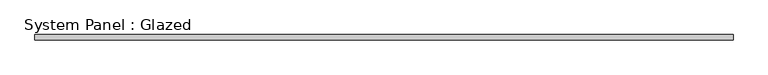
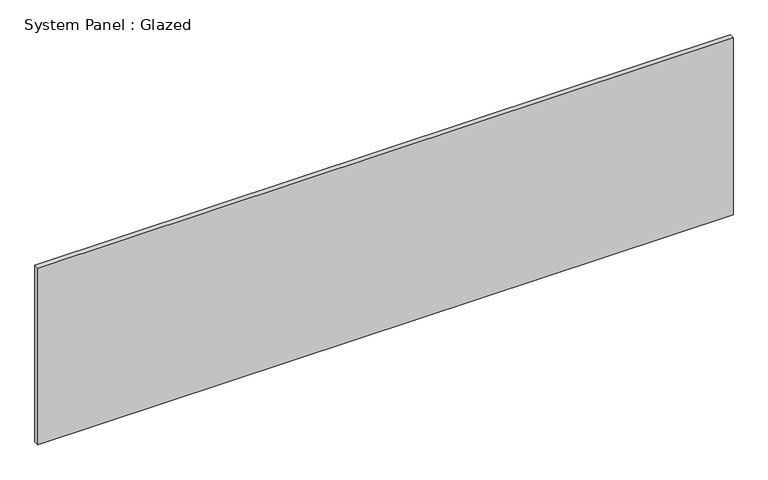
"""IFC4 building model written with IfcOpenShell, lengths in millimetres: plate geometry, System Panel : Glazed."""

import ifcopenshell
import ifcopenshell.guid

model = None  # the IFC model being written
_history = None  # IfcOwnerHistory: only IFC2X3 demands one
_inside = {}  # id of a spatial element -> (the spatial element, [elements in it])
_under = {}  # id of a project, library or spatial element -> (it, [spatial elements below it])
_declared = {}  # id of a project -> (the project, [libraries it declares])
_typed = {}  # id of a type object -> (the type object, [elements of that type])
_made_of = {}  # id of a material, layer set ... -> (it, [elements and type objects made of it])


def new_model(schema):
    """Start an empty IFC model of exactly this schema.

    Asked for "IFC4X3", IfcOpenShell would pick the latest addendum, in which some entities
    have other attributes; the version numbers below select the first issue.
    IFC2X3 requires an IfcOwnerHistory on every rooted entity: one is made here for all.
    """
    global model, _history
    if schema == "IFC4X3":
        model = ifcopenshell.file(schema_version=(4, 3, 0, 0))
    else:
        model = ifcopenshell.file(schema=schema)
    _inside.clear()
    _under.clear()
    _declared.clear()
    _typed.clear()
    _made_of.clear()
    _history = None
    if model.schema == "IFC2X3":
        org = make("IfcOrganization", Name="unknown")
        user = make(
            "IfcPersonAndOrganization",
            ThePerson=make("IfcPerson", FamilyName="unknown"),
            TheOrganization=org,
        )
        app = make(
            "IfcApplication",
            ApplicationDeveloper=org,
            Version="unknown",
            ApplicationFullName="unknown",
            ApplicationIdentifier="unknown",
        )
        _history = make(
            "IfcOwnerHistory",
            OwningUser=user,
            OwningApplication=app,
            ChangeAction="ADDED",
            CreationDate=0,
        )
    return model


def make(cls, **values):
    """One entity of the class cls with the attributes given. An attribute that is None is left unset."""
    return model.create_entity(
        cls, **{name: value for name, value in values.items() if value is not None}
    )


def rooted(cls, **values):
    """An entity with a GlobalId (a new one), such as an element, a storey or a relation."""
    return make(cls, GlobalId=ifcopenshell.guid.new(), OwnerHistory=_history, **values)


def si_unit(unit_type, name, prefix=None):
    """IfcSIUnit, for example si_unit("LENGTHUNIT", "METRE", prefix="MILLI")."""
    return make("IfcSIUnit", UnitType=unit_type, Prefix=prefix, Name=name)


def assignment(units):
    """IfcUnitAssignment: the units of a project."""
    return None if units is None else make("IfcUnitAssignment", Units=units)


def point(xyz):
    """IfcCartesianPoint."""
    return None if xyz is None else make("IfcCartesianPoint", Coordinates=xyz)


def direction(xyz):
    """IfcDirection."""
    return None if xyz is None else make("IfcDirection", DirectionRatios=xyz)


def frame(location, z_axis=None, x_axis=None):
    """IfcAxis2Placement3D, a coordinate frame: its origin and axes. An axis left out is left unset."""
    return make(
        "IfcAxis2Placement3D",
        Location=point(location),
        Axis=direction(z_axis),
        RefDirection=direction(x_axis),
    )


def origin():
    """The frame at (0, 0, 0) with its axes left unset."""
    return frame((0.0, 0.0, 0.0))


def origin_with_axes():
    """The frame at (0, 0, 0) with the z axis (0, 0, 1) and the x axis (1, 0, 0) written out."""
    return frame((0.0, 0.0, 0.0), z_axis=(0.0, 0.0, 1.0), x_axis=(1.0, 0.0, 0.0))


def place(relative_to, where):
    """IfcLocalPlacement: puts the frame where relative to a parent placement (None: the world)."""
    return make(
        "IfcLocalPlacement", PlacementRelTo=relative_to, RelativePlacement=where
    )


def context(
    kind, dimensions, precision=None, world=None, true_north=None, identifier=None
):
    """IfcGeometricRepresentationContext, for example the 3D "Model" context."""
    return make(
        "IfcGeometricRepresentationContext",
        ContextIdentifier=identifier,
        ContextType=kind,
        CoordinateSpaceDimension=dimensions,
        Precision=precision,
        WorldCoordinateSystem=world,
        TrueNorth=true_north,
    )


def project(units=None, contexts=None):
    """IfcProject with its units and contexts."""
    return rooted(
        "IfcProject",
        Name="project",
        RepresentationContexts=contexts,
        UnitsInContext=assignment(units),
    )


def spatial(cls, under=None, at=None, **own):
    """A site, building, storey or space (cls), placed at a placement, below another one or the project."""
    s = rooted(cls, ObjectPlacement=at, **own)
    if under is not None:
        _under.setdefault(under.id(), (under, []))[1].append(s)
    return s


def polyline(points):
    """IfcPolyline through the points."""
    return make("IfcPolyline", Points=[point(p) for p in points])


def outline(outer, holes=None, kind="AREA"):
    """IfcArbitraryClosedProfileDef: a profile drawn as a closed curve; with holes, ...WithVoids."""
    if holes is None:
        return make("IfcArbitraryClosedProfileDef", ProfileType=kind, OuterCurve=outer)
    return make(
        "IfcArbitraryProfileDefWithVoids",
        ProfileType=kind,
        OuterCurve=outer,
        InnerCurves=holes,
    )


def extrude(swept, where, along, depth):
    """IfcExtrudedAreaSolid: the profile swept, set in the frame where, extruded along a direction by depth."""
    return make(
        "IfcExtrudedAreaSolid",
        SweptArea=swept,
        Position=where,
        ExtrudedDirection=direction(along),
        Depth=depth,
    )


def shape(context_of_items, identifier, shape_type, items):
    """IfcShapeRepresentation: the items that make up one representation, for example the "Body"."""
    return make(
        "IfcShapeRepresentation",
        ContextOfItems=context_of_items,
        RepresentationIdentifier=identifier,
        RepresentationType=shape_type,
        Items=items,
    )


def source(mapping_origin, context_of_items, identifier, shape_type, items):
    """IfcRepresentationMap: a shape defined once, which mapped items show again and again."""
    return make(
        "IfcRepresentationMap",
        MappingOrigin=mapping_origin,
        MappedRepresentation=shape(context_of_items, identifier, shape_type, items),
    )


def transform(
    local_origin,
    x_axis=None,
    y_axis=None,
    z_axis=None,
    scale=None,
    scale2=None,
    scale3=None,
    uniform=True,
):
    """IfcCartesianTransformationOperator3D, or its non-uniform kind. x_axis, y_axis, z_axis: its Axis1, 2, 3."""
    if uniform:
        return make(
            "IfcCartesianTransformationOperator3D",
            Axis1=direction(x_axis),
            Axis2=direction(y_axis),
            LocalOrigin=point(local_origin),
            Scale=scale,
            Axis3=direction(z_axis),
        )
    return make(
        "IfcCartesianTransformationOperator3DnonUniform",
        Axis1=direction(x_axis),
        Axis2=direction(y_axis),
        LocalOrigin=point(local_origin),
        Scale=scale,
        Axis3=direction(z_axis),
        Scale2=scale2,
        Scale3=scale3,
    )


def mapped(mapping_source, mapping_target):
    """IfcMappedItem: shows the shape of a source again, moved by a transform."""
    return make(
        "IfcMappedItem", MappingSource=mapping_source, MappingTarget=mapping_target
    )


def made_of(thing, what):
    """Note that an element or type object is made of a material, layer set ...; save() writes the relation."""
    if what is not None:
        _made_of.setdefault(what.id(), (what, []))[1].append(thing)
    return thing


def element(
    cls,
    number,
    at=None,
    inside=None,
    cuts=None,
    type_object=None,
    material=None,
    context=None,
    identifier="Body",
    shape_type=None,
    held_by="IfcProductDefinitionShape",
    body=None,
    shapes=None,
    **own,
):
    """One element of the class cls, such as IfcWall. Its Tag is "e" and its number.

    at: its placement. inside: the storey or other place that contains it. cuts: it is an
    opening in that element (IfcRelVoidsElement). A single representation is given by context,
    identifier, shape_type and body (its items); several are given by shapes. held_by: the class
    of the entity that holds the representations. save() writes the other relations.
    """
    e = rooted(cls, Tag="e%d" % number, ObjectPlacement=at, **own)
    if body is not None:
        shapes = [shape(context, identifier, shape_type, body)]
    if shapes is not None:
        e.Representation = make(held_by, Representations=shapes)
    if inside is not None:
        _inside.setdefault(inside.id(), (inside, []))[1].append(e)
    if cuts is not None:
        rooted(
            "IfcRelVoidsElement", RelatingBuildingElement=cuts, RelatedOpeningElement=e
        )
    if type_object is not None:
        _typed.setdefault(type_object.id(), (type_object, []))[1].append(e)
    return made_of(e, material)


def aggregate(whole, parts):
    """IfcRelAggregates: a whole, such as a stair, and the parts it consists of."""
    return rooted("IfcRelAggregates", RelatingObject=whole, RelatedObjects=parts)


def save(model, path):
    """Write the relations noted so far, then the file.

    IfcRelAggregates (storeys below a building ...), IfcRelContainedInSpatialStructure (elements
    in a storey), IfcRelDefinesByType, IfcRelAssociatesMaterial and IfcRelDeclares: one each for
    every whole, place, type object, material and project.
    """
    for whole, parts in _under.values():
        aggregate(whole, parts)
    for where, things in _inside.values():
        rooted(
            "IfcRelContainedInSpatialStructure",
            RelatedElements=things,
            RelatingStructure=where,
        )
    for kind, things in _typed.values():
        rooted("IfcRelDefinesByType", RelatedObjects=things, RelatingType=kind)
    for what, things in _made_of.values():
        rooted("IfcRelAssociatesMaterial", RelatedObjects=things, RelatingMaterial=what)
    for by, libraries in _declared.values():
        rooted("IfcRelDeclares", RelatingContext=by, RelatedDefinitions=libraries)
    model.write(path)


def system_panel_glazed_2f9f84b5(model_context):
    return source(origin(), model_context, "Body", "SweptSolid", [
        extrude(outline(polyline([(1675.0, 24.5), (-1675.0, 24.5), (-1675.0, 49.5), (1675.0, 49.5), (1675.0, 24.5)])), origin_with_axes(), (0.0, 0.0, 1.0), 900.0),
    ])


if __name__ == "__main__":
    model = new_model("IFC4")
    model_context = context("Model", 3, world=origin())
    ifc_project = project(units=[si_unit("LENGTHUNIT", "METRE", prefix="MILLI")], contexts=[model_context])
    site = spatial("IfcSite", under=ifc_project)
    building = spatial("IfcBuilding", under=site)
    placement = place(None, origin())
    system_panel_glazed_shape = system_panel_glazed_2f9f84b5(model_context)
    element("IfcPlate", 1, ObjectType="System Panel : Glazed", at=placement, inside=building, context=model_context, shape_type="MappedRepresentation", body=[
        mapped(system_panel_glazed_shape, transform((0.0, 0.0, 0.0), x_axis=(1.0, 0.0, 0.0), y_axis=(0.0, 1.0, 0.0), z_axis=(0.0, 0.0, 1.0))),
    ])
    save(model, "model.ifc")
